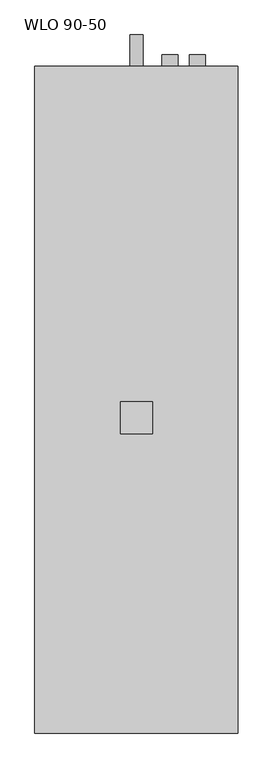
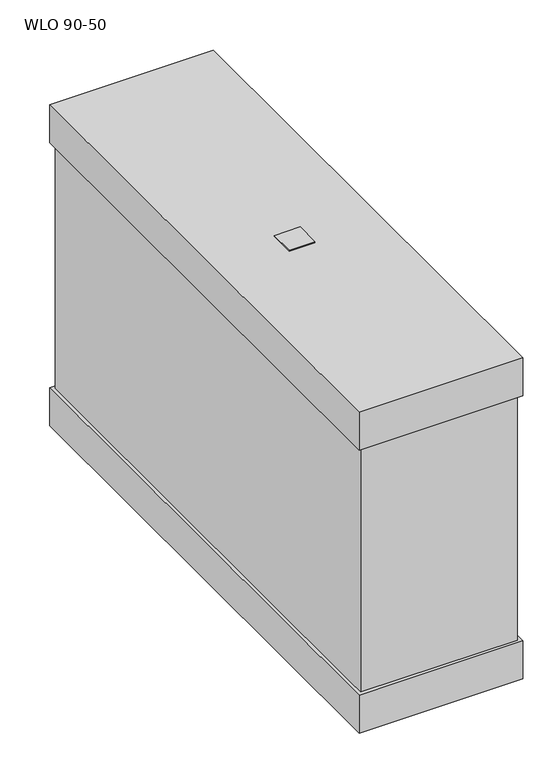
"""IFC4 building model written with IfcOpenShell, lengths in millimetres: proxy geometry, KORF_Воздухоохладитель_Водяной_WLO_Правый : WLO 90-50."""

from ifc_helpers import new_model, si_unit, point, frame, frame_2d, origin, place, context, project, spatial, polyline, circle_curve, trimmed, segment, composite_curve, outline, extrude, faceted_brep, source, transform, mapped, element, save


def wlo_90_50_9a9a7130(model_context):
    return source(origin(), model_context, "Body", "SolidModel", [
        extrude(outline(polyline([(133.0, -25.0), (133.0, 25.0), (183.0, 25.0), (183.0, -25.0), (133.0, -25.0)])), frame((0.0, 0.0, 327.5), z_axis=(0.0, 0.0, 1.0), x_axis=(1.0, 0.0, 0.0)), (0.0, 0.0, 1.0), 2.0),
        faceted_brep([(316.0, -489.5, 327.5), (316.0, -489.5, 250.0), (316.0, 545.5, 250.0), (316.0, 545.5, 327.5), (316.0, -489.5, -250.0), (316.0, -489.5, -327.5), (316.0, 545.5, -327.5), (316.0, 545.5, -250.0), (0.0, -489.5, 327.5), (0.0, 545.5, 327.5), (0.0, 545.5, 250.0), (0.0, -489.5, 250.0), (0.0, -489.5, -250.0), (0.0, 545.5, -250.0), (0.0, 545.5, -327.5), (0.0, -489.5, -327.5), (7.0, -482.5, 250.0), (309.0, -482.5, 250.0), (309.0, -450.0, 250.0), (309.0, 450.0, 250.0), (309.0, 538.5, 250.0), (7.0, 538.5, 250.0), (7.0, 450.0, 250.0), (7.0, -450.0, 250.0), (309.0, -482.5, -250.0), (7.0, -482.5, -250.0), (7.0, -450.0, -250.0), (7.0, 450.0, -250.0), (7.0, 538.5, -250.0), (309.0, 538.5, -250.0), (309.0, 450.0, -250.0), (309.0, -450.0, -250.0)], [[[0, 1, 2, 3]], [[4, 5, 6, 7]], [[8, 9, 10, 11]], [[12, 13, 14, 15]], [[1, 0, 8, 11]], [[2, 1, 11, 10], [16, 17, 18, 19, 20, 21, 22, 23]], [[3, 2, 10, 9]], [[0, 3, 9, 8]], [[5, 4, 12, 15]], [[6, 5, 15, 14]], [[7, 6, 14, 13]], [[4, 7, 13, 12], [24, 25, 26, 27, 28, 29, 30, 31]], [[17, 24, 31, 30, 29, 20, 19, 18]], [[21, 28, 27, 26, 25, 16, 23, 22]], [[24, 17, 16, 25]], [[20, 29, 28, 21]]]),
        extrude(outline(composite_curve([segment(trimmed(circle_curve(frame_2d((50.0, 253.0)), 12.5), [point((50.0, 240.5))], [point((50.0, 265.5))], False, "CARTESIAN"), True, "CONTINUOUS"), segment(trimmed(circle_curve(frame_2d((50.0, 253.0)), 12.5), [point((50.0, 265.5))], [point((50.0, 240.5))], False, "CARTESIAN"), True, "CONTINUOUS")], self_intersect=False)), frame((0.0, 538.5, 0.0), z_axis=(0.0, 1.0, 0.0), x_axis=(0.0, 0.0, 1.0)), (0.0, 0.0, 1.0), 25.0),
        extrude(outline(composite_curve([segment(trimmed(circle_curve(frame_2d((-50.0, 210.0)), 12.5), [point((-50.0, 197.5))], [point((-50.0, 222.5))], False, "CARTESIAN"), True, "CONTINUOUS"), segment(trimmed(circle_curve(frame_2d((-50.0, 210.0)), 12.5), [point((-50.0, 222.5))], [point((-50.0, 197.5))], False, "CARTESIAN"), True, "CONTINUOUS")], self_intersect=False)), frame((0.0, 538.5, 0.0), z_axis=(0.0, 1.0, 0.0), x_axis=(0.0, 0.0, 1.0)), (0.0, 0.0, 1.0), 25.0),
        extrude(outline(composite_curve([segment(trimmed(circle_curve(frame_2d((-309.5, 158.0)), 10.0), [point((-309.5, 148.0))], [point((-309.5, 168.0))], False, "CARTESIAN"), True, "CONTINUOUS"), segment(trimmed(circle_curve(frame_2d((-309.5, 158.0)), 10.0), [point((-309.5, 168.0))], [point((-309.5, 148.0))], False, "CARTESIAN"), True, "CONTINUOUS")], self_intersect=False)), frame((0.0, 545.5, 0.0), z_axis=(0.0, 1.0, 0.0), x_axis=(0.0, 0.0, 1.0)), (0.0, 0.0, 1.0), 49.0),
    ])


if __name__ == "__main__":
    model = new_model("IFC4")
    model_context = context("Model", 3, world=origin())
    ifc_project = project(units=[si_unit("LENGTHUNIT", "METRE", prefix="MILLI")], contexts=[model_context])
    site = spatial("IfcSite", under=ifc_project)
    building = spatial("IfcBuilding", under=site)
    placement = place(None, origin())
    wlo_90_50_shape = wlo_90_50_9a9a7130(model_context)
    element("IfcBuildingElementProxy", 1, Name="KORF_Воздухоохладитель_Водяной_WLO_Правый : WLO 90-50", ObjectType="KORF_Воздухоохладитель_Водяной_WLO_Правый : WLO 90-50", at=placement, inside=building, context=model_context, shape_type="MappedRepresentation", body=[
        mapped(wlo_90_50_shape, transform((0.0, 0.0, 0.0), x_axis=(1.0, 0.0, 0.0), y_axis=(0.0, 1.0, 0.0), z_axis=(0.0, 0.0, 1.0))),
    ])
    save(model, "model.ifc")
